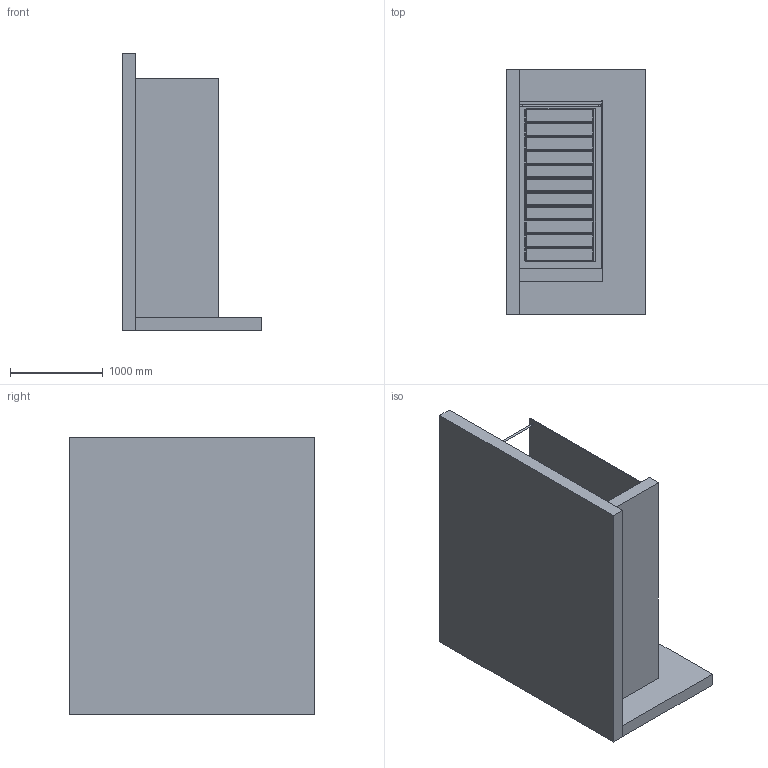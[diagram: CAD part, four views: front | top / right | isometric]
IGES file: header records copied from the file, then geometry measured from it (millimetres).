
Global section: file name: \\Archi-NAS\Comune\X GIOVANNI\SCHEDE PRODOTTO\BOX DOCCIA\DISEGNI 3D\ST 500\MOMA DESIGN_BOX DOCCIA_ST502.igs; native system: Rhinoceros ( Jan 17 2018 ); preprocessor: Trout Lake IGES 012 Jan 17 2018; date: 230622.155726; units: millimetre
Bounding box: 1502.28 x 2641.25 x 2983.36 mm (x, y, z)
Surface area: 45994863.1 mm2 (no closed solid volume)
Topology: 0 solids, 0 shells, 435 faces, 1791 edges, 1628 vertices
Faces by surface type: bspline 435
